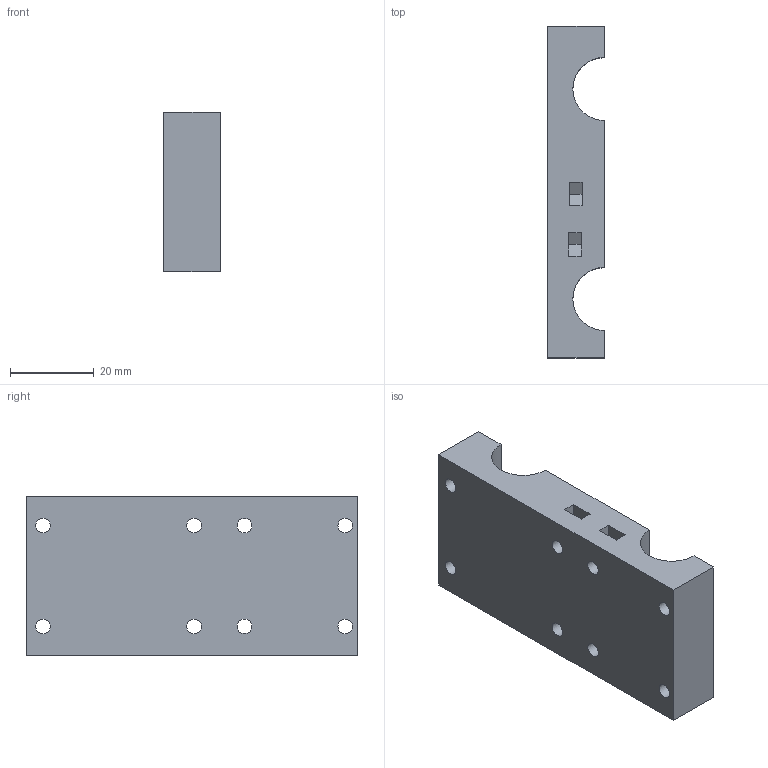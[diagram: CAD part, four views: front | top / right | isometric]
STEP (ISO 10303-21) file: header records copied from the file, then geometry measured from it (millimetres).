
FILE_DESCRIPTION(/* description */ (''),/* implementation_level */ '2;1');
FILE_NAME(/* name */ 'X Carriage Front v5.step',/* time_stamp */ '2023-03-23T06:44:03-06:00',/* author */ (''),/* organization */ (''),/* preprocessor_version */ 'ST-DEVELOPER v19.2',/* originating_system */ 'Autodesk Translation Framework v11.17.0.187',/* authorisation */ '');
FILE_SCHEMA (('AUTOMOTIVE_DESIGN { 1 0 10303 214 3 1 1 }'));
Length unit declared in the file: millimetre
Products named in the file (2): X Carriage Front; Component1
Assembly tree (1 placements, depth 2):
  X Carriage Front
    Component1
Bounding box: 13.5 x 79 x 38 mm (x, y, z)
Volume: 32218.2 mm3; surface area: 11000.9 mm2
Topology: 1 solids, 1 shells, 74 faces, 198 edges, 132 vertices
Faces by surface type: plane 56, cylinder 14, bspline 4
Full cylindrical faces by diameter (mm): 3.5 x12
Entity records: 2431 total; most frequent: CARTESIAN_POINT 475, ORIENTED_EDGE 396, DIRECTION 364, EDGE_CURVE 198, LINE 162, VECTOR 162, VERTEX_POINT 132, EDGE_LOOP 104
